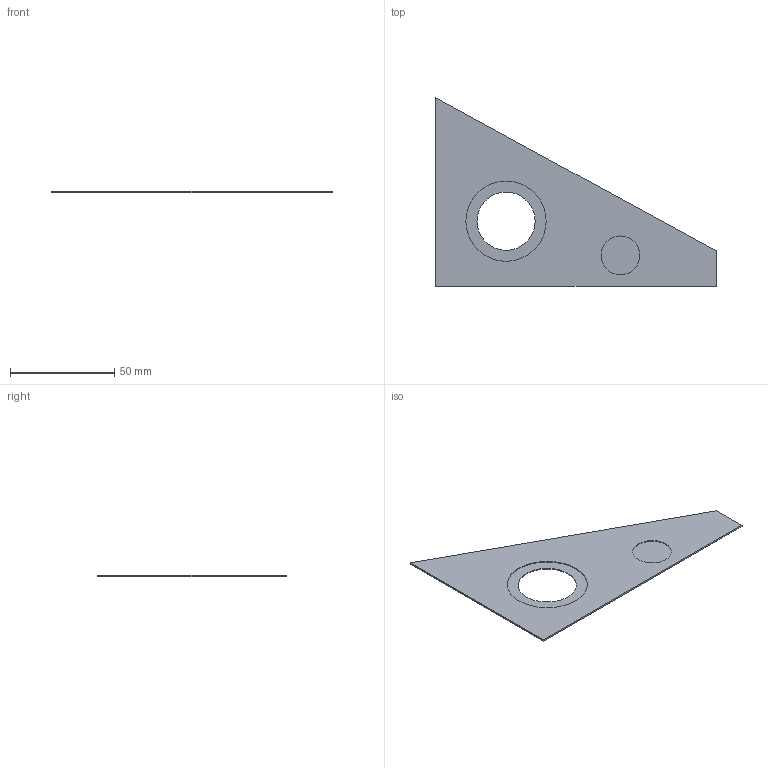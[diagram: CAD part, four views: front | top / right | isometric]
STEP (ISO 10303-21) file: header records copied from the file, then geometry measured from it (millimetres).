
FILE_DESCRIPTION(('STEP AP203'), '1');
FILE_NAME('ìàñêà äåêè ïåðåä 1', '', ('UNSPECIFIED'), ('UNSPECIFIED'), 'ASCON STEP Converter 1.3', 'ASCON Math Kernel', '');
FILE_SCHEMA(('CONFIG_CONTROL_DESIGN'));
Length unit declared in the file: millimetre
Bounding box: 135.02 x 90.7 x 0.8 mm (x, y, z)
Volume: 4993.7 mm3; surface area: 13734.8 mm2
Topology: 1 solids, 1 shells, 11 faces, 21 edges, 14 vertices
Faces by surface type: plane 8, cylinder 3
Full cylindrical faces by diameter (mm): 18.6 x1, 28 x1, 38.6 x1
Entity records: 402 total; most frequent: DIRECTION 48, CARTESIAN_POINT 44, ORIENTED_EDGE 36, AXIS2_PLACEMENT_3D 18, EDGE_LOOP 18, EDGE_CURVE 18, VERTEX_POINT 14, COLOUR_RGB 12
